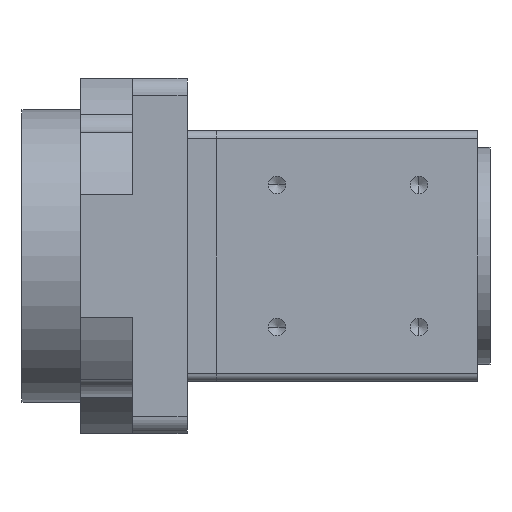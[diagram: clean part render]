
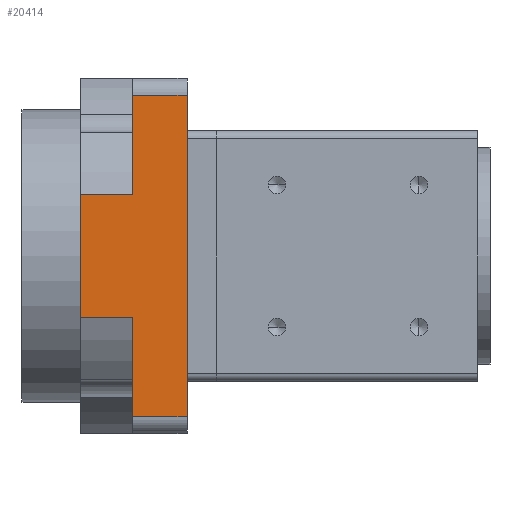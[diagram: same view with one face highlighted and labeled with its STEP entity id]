
A CAD part, left-side view. The second image highlights one B-rep face of the part: STEP entity #20414.
In plain terms, the highlighted planar face has unit normal (-1, 0, 0).
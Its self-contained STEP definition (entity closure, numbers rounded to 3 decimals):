
#4389 = PLANE('',#4390);
#4390 = AXIS2_PLACEMENT_3D('',#4391,#4392,#4393);
#4391 = CARTESIAN_POINT('',(22.343,-3.886,144.3));
#4392 = DIRECTION('',(0.,-1.,0.));
#4393 = DIRECTION('',(0.,-0.,-1.));
#5247 = VERTEX_POINT('',#5248);
#5248 = CARTESIAN_POINT('',(-66.657,-3.886,152.8));
#5263 = CYLINDRICAL_SURFACE('',#5264,4.);
#5264 = AXIS2_PLACEMENT_3D('',#5265,#5266,#5267);
#5265 = CARTESIAN_POINT('',(-62.657,9.114,152.8));
#5266 = DIRECTION('',(-0.,-1.,-0.));
#5267 = DIRECTION('',(0.,0.,-1.));
#5275 = EDGE_CURVE('',#5247,#5276,#5278,.T.);
#5276 = VERTEX_POINT('',#5277);
#5277 = CARTESIAN_POINT('',(-66.657,-3.886,75.8));
#5278 = SURFACE_CURVE('',#5279,(#5283,#5290),.PCURVE_S1.);
#5279 = LINE('',#5280,#5281);
#5280 = CARTESIAN_POINT('',(-66.657,-3.886,144.3));
#5281 = VECTOR('',#5282,1.);
#5282 = DIRECTION('',(0.,-0.,-1.));
#5283 = PCURVE('',#4389,#5284);
#5284 = DEFINITIONAL_REPRESENTATION('',(#5285),#5289);
#5285 = LINE('',#5286,#5287);
#5286 = CARTESIAN_POINT('',(-0.,-89.));
#5287 = VECTOR('',#5288,1.);
#5288 = DIRECTION('',(1.,0.));
#5289 = ( GEOMETRIC_REPRESENTATION_CONTEXT(2) 
PARAMETRIC_REPRESENTATION_CONTEXT() REPRESENTATION_CONTEXT('2D SPACE',''
  ) );
#5290 = PCURVE('',#5291,#5296);
#5291 = PLANE('',#5292);
#5292 = AXIS2_PLACEMENT_3D('',#5293,#5294,#5295);
#5293 = CARTESIAN_POINT('',(-66.657,9.114,75.8));
#5294 = DIRECTION('',(1.,0.,0.));
#5295 = DIRECTION('',(0.,0.,-1.));
#5296 = DEFINITIONAL_REPRESENTATION('',(#5297),#5301);
#5297 = LINE('',#5298,#5299);
#5298 = CARTESIAN_POINT('',(-68.5,-13.));
#5299 = VECTOR('',#5300,1.);
#5300 = DIRECTION('',(1.,-0.));
#5301 = ( GEOMETRIC_REPRESENTATION_CONTEXT(2) 
PARAMETRIC_REPRESENTATION_CONTEXT() REPRESENTATION_CONTEXT('2D SPACE',''
  ) );
#5320 = CYLINDRICAL_SURFACE('',#5321,4.);
#5321 = AXIS2_PLACEMENT_3D('',#5322,#5323,#5324);
#5322 = CARTESIAN_POINT('',(-62.657,9.114,75.8));
#5323 = DIRECTION('',(-0.,-1.,-0.));
#5324 = DIRECTION('',(0.,0.,-1.));
#20253 = PLANE('',#20254);
#20254 = AXIS2_PLACEMENT_3D('',#20255,#20256,#20257);
#20255 = CARTESIAN_POINT('',(-24.157,21.614,114.3));
#20256 = DIRECTION('',(0.,1.,0.));
#20257 = DIRECTION('',(0.,-0.,1.));
#20309 = PLANE('',#20310);
#20310 = AXIS2_PLACEMENT_3D('',#20311,#20312,#20313);
#20311 = CARTESIAN_POINT('',(22.343,9.114,148.3));
#20312 = DIRECTION('',(0.,-1.,0.));
#20313 = DIRECTION('',(0.,-0.,-1.));
#20369 = VERTEX_POINT('',#20370);
#20370 = CARTESIAN_POINT('',(-66.657,9.114,152.8));
#20392 = EDGE_CURVE('',#20369,#5247,#20393,.T.);
#20393 = SURFACE_CURVE('',#20394,(#20398,#20405),.PCURVE_S1.);
#20394 = LINE('',#20395,#20396);
#20395 = CARTESIAN_POINT('',(-66.657,9.114,152.8));
#20396 = VECTOR('',#20397,1.);
#20397 = DIRECTION('',(-0.,-1.,-0.));
#20398 = PCURVE('',#5263,#20399);
#20399 = DEFINITIONAL_REPRESENTATION('',(#20400),#20404);
#20400 = LINE('',#20401,#20402);
#20401 = CARTESIAN_POINT('',(4.712,0.));
#20402 = VECTOR('',#20403,1.);
#20403 = DIRECTION('',(0.,1.));
#20404 = ( GEOMETRIC_REPRESENTATION_CONTEXT(2) 
PARAMETRIC_REPRESENTATION_CONTEXT() REPRESENTATION_CONTEXT('2D SPACE',''
  ) );
#20405 = PCURVE('',#5291,#20406);
#20406 = DEFINITIONAL_REPRESENTATION('',(#20407),#20411);
#20407 = LINE('',#20408,#20409);
#20408 = CARTESIAN_POINT('',(-77.,0.));
#20409 = VECTOR('',#20410,1.);
#20410 = DIRECTION('',(0.,-1.));
#20411 = ( GEOMETRIC_REPRESENTATION_CONTEXT(2) 
PARAMETRIC_REPRESENTATION_CONTEXT() REPRESENTATION_CONTEXT('2D SPACE',''
  ) );
#20414 = ADVANCED_FACE('',(#20415),#5291,.F.);
#20415 = FACE_BOUND('',#20416,.T.);
#20416 = EDGE_LOOP('',(#20417,#20447,#20470,#20498,#20526,#20547,#20548,
    #20549));
#20417 = ORIENTED_EDGE('',*,*,#20418,.F.);
#20418 = EDGE_CURVE('',#20419,#20421,#20423,.T.);
#20419 = VERTEX_POINT('',#20420);
#20420 = CARTESIAN_POINT('',(-66.657,21.614,
    129.09));
#20421 = VERTEX_POINT('',#20422);
#20422 = CARTESIAN_POINT('',(-66.657,9.114,
    129.09));
#20423 = SURFACE_CURVE('',#20424,(#20428,#20435),.PCURVE_S1.);
#20424 = LINE('',#20425,#20426);
#20425 = CARTESIAN_POINT('',(-66.657,9.114,
    129.09));
#20426 = VECTOR('',#20427,1.);
#20427 = DIRECTION('',(-0.,-1.,-0.));
#20428 = PCURVE('',#5291,#20429);
#20429 = DEFINITIONAL_REPRESENTATION('',(#20430),#20434);
#20430 = LINE('',#20431,#20432);
#20431 = CARTESIAN_POINT('',(-53.29,0.));
#20432 = VECTOR('',#20433,1.);
#20433 = DIRECTION('',(0.,-1.));
#20434 = ( GEOMETRIC_REPRESENTATION_CONTEXT(2) 
PARAMETRIC_REPRESENTATION_CONTEXT() REPRESENTATION_CONTEXT('2D SPACE',''
  ) );
#20435 = PCURVE('',#20436,#20441);
#20436 = CYLINDRICAL_SURFACE('',#20437,45.);
#20437 = AXIS2_PLACEMENT_3D('',#20438,#20439,#20440);
#20438 = CARTESIAN_POINT('',(-24.157,21.614,114.3));
#20439 = DIRECTION('',(-0.,-1.,-0.));
#20440 = DIRECTION('',(0.,0.,-1.));
#20441 = DEFINITIONAL_REPRESENTATION('',(#20442),#20446);
#20442 = LINE('',#20443,#20444);
#20443 = CARTESIAN_POINT('',(4.377,12.5));
#20444 = VECTOR('',#20445,1.);
#20445 = DIRECTION('',(0.,1.));
#20446 = ( GEOMETRIC_REPRESENTATION_CONTEXT(2) 
PARAMETRIC_REPRESENTATION_CONTEXT() REPRESENTATION_CONTEXT('2D SPACE',''
  ) );
#20447 = ORIENTED_EDGE('',*,*,#20448,.F.);
#20448 = EDGE_CURVE('',#20449,#20419,#20451,.T.);
#20449 = VERTEX_POINT('',#20450);
#20450 = CARTESIAN_POINT('',(-66.657,21.614,
    99.51));
#20451 = SURFACE_CURVE('',#20452,(#20456,#20463),.PCURVE_S1.);
#20452 = LINE('',#20453,#20454);
#20453 = CARTESIAN_POINT('',(-66.657,21.614,75.8));
#20454 = VECTOR('',#20455,1.);
#20455 = DIRECTION('',(0.,-0.,1.));
#20456 = PCURVE('',#5291,#20457);
#20457 = DEFINITIONAL_REPRESENTATION('',(#20458),#20462);
#20458 = LINE('',#20459,#20460);
#20459 = CARTESIAN_POINT('',(0.,12.5));
#20460 = VECTOR('',#20461,1.);
#20461 = DIRECTION('',(-1.,0.));
#20462 = ( GEOMETRIC_REPRESENTATION_CONTEXT(2) 
PARAMETRIC_REPRESENTATION_CONTEXT() REPRESENTATION_CONTEXT('2D SPACE',''
  ) );
#20463 = PCURVE('',#20253,#20464);
#20464 = DEFINITIONAL_REPRESENTATION('',(#20465),#20469);
#20465 = LINE('',#20466,#20467);
#20466 = CARTESIAN_POINT('',(-38.5,-42.5));
#20467 = VECTOR('',#20468,1.);
#20468 = DIRECTION('',(1.,0.));
#20469 = ( GEOMETRIC_REPRESENTATION_CONTEXT(2) 
PARAMETRIC_REPRESENTATION_CONTEXT() REPRESENTATION_CONTEXT('2D SPACE',''
  ) );
#20470 = ORIENTED_EDGE('',*,*,#20471,.F.);
#20471 = EDGE_CURVE('',#20472,#20449,#20474,.T.);
#20472 = VERTEX_POINT('',#20473);
#20473 = CARTESIAN_POINT('',(-66.657,9.114,
    99.51));
#20474 = SURFACE_CURVE('',#20475,(#20479,#20486),.PCURVE_S1.);
#20475 = LINE('',#20476,#20477);
#20476 = CARTESIAN_POINT('',(-66.657,9.114,
    99.51));
#20477 = VECTOR('',#20478,1.);
#20478 = DIRECTION('',(0.,1.,0.));
#20479 = PCURVE('',#5291,#20480);
#20480 = DEFINITIONAL_REPRESENTATION('',(#20481),#20485);
#20481 = LINE('',#20482,#20483);
#20482 = CARTESIAN_POINT('',(-23.71,0.));
#20483 = VECTOR('',#20484,1.);
#20484 = DIRECTION('',(0.,1.));
#20485 = ( GEOMETRIC_REPRESENTATION_CONTEXT(2) 
PARAMETRIC_REPRESENTATION_CONTEXT() REPRESENTATION_CONTEXT('2D SPACE',''
  ) );
#20486 = PCURVE('',#20487,#20492);
#20487 = CYLINDRICAL_SURFACE('',#20488,45.);
#20488 = AXIS2_PLACEMENT_3D('',#20489,#20490,#20491);
#20489 = CARTESIAN_POINT('',(-24.157,21.614,114.3));
#20490 = DIRECTION('',(-0.,-1.,-0.));
#20491 = DIRECTION('',(0.,0.,-1.));
#20492 = DEFINITIONAL_REPRESENTATION('',(#20493),#20497);
#20493 = LINE('',#20494,#20495);
#20494 = CARTESIAN_POINT('',(5.047,12.5));
#20495 = VECTOR('',#20496,1.);
#20496 = DIRECTION('',(0.,-1.));
#20497 = ( GEOMETRIC_REPRESENTATION_CONTEXT(2) 
PARAMETRIC_REPRESENTATION_CONTEXT() REPRESENTATION_CONTEXT('2D SPACE',''
  ) );
#20498 = ORIENTED_EDGE('',*,*,#20499,.F.);
#20499 = EDGE_CURVE('',#20500,#20472,#20502,.T.);
#20500 = VERTEX_POINT('',#20501);
#20501 = CARTESIAN_POINT('',(-66.657,9.114,75.8));
#20502 = SURFACE_CURVE('',#20503,(#20507,#20514),.PCURVE_S1.);
#20503 = LINE('',#20504,#20505);
#20504 = CARTESIAN_POINT('',(-66.657,9.114,75.8));
#20505 = VECTOR('',#20506,1.);
#20506 = DIRECTION('',(0.,-0.,1.));
#20507 = PCURVE('',#5291,#20508);
#20508 = DEFINITIONAL_REPRESENTATION('',(#20509),#20513);
#20509 = LINE('',#20510,#20511);
#20510 = CARTESIAN_POINT('',(0.,0.));
#20511 = VECTOR('',#20512,1.);
#20512 = DIRECTION('',(-1.,0.));
#20513 = ( GEOMETRIC_REPRESENTATION_CONTEXT(2) 
PARAMETRIC_REPRESENTATION_CONTEXT() REPRESENTATION_CONTEXT('2D SPACE',''
  ) );
#20514 = PCURVE('',#20515,#20520);
#20515 = PLANE('',#20516);
#20516 = AXIS2_PLACEMENT_3D('',#20517,#20518,#20519);
#20517 = CARTESIAN_POINT('',(22.343,9.114,148.3));
#20518 = DIRECTION('',(0.,-1.,0.));
#20519 = DIRECTION('',(0.,-0.,-1.));
#20520 = DEFINITIONAL_REPRESENTATION('',(#20521),#20525);
#20521 = LINE('',#20522,#20523);
#20522 = CARTESIAN_POINT('',(72.5,-89.));
#20523 = VECTOR('',#20524,1.);
#20524 = DIRECTION('',(-1.,0.));
#20525 = ( GEOMETRIC_REPRESENTATION_CONTEXT(2) 
PARAMETRIC_REPRESENTATION_CONTEXT() REPRESENTATION_CONTEXT('2D SPACE',''
  ) );
#20526 = ORIENTED_EDGE('',*,*,#20527,.F.);
#20527 = EDGE_CURVE('',#5276,#20500,#20528,.T.);
#20528 = SURFACE_CURVE('',#20529,(#20533,#20540),.PCURVE_S1.);
#20529 = LINE('',#20530,#20531);
#20530 = CARTESIAN_POINT('',(-66.657,9.114,75.8));
#20531 = VECTOR('',#20532,1.);
#20532 = DIRECTION('',(0.,1.,0.));
#20533 = PCURVE('',#5291,#20534);
#20534 = DEFINITIONAL_REPRESENTATION('',(#20535),#20539);
#20535 = LINE('',#20536,#20537);
#20536 = CARTESIAN_POINT('',(0.,0.));
#20537 = VECTOR('',#20538,1.);
#20538 = DIRECTION('',(0.,1.));
#20539 = ( GEOMETRIC_REPRESENTATION_CONTEXT(2) 
PARAMETRIC_REPRESENTATION_CONTEXT() REPRESENTATION_CONTEXT('2D SPACE',''
  ) );
#20540 = PCURVE('',#5320,#20541);
#20541 = DEFINITIONAL_REPRESENTATION('',(#20542),#20546);
#20542 = LINE('',#20543,#20544);
#20543 = CARTESIAN_POINT('',(4.712,0.));
#20544 = VECTOR('',#20545,1.);
#20545 = DIRECTION('',(0.,-1.));
#20546 = ( GEOMETRIC_REPRESENTATION_CONTEXT(2) 
PARAMETRIC_REPRESENTATION_CONTEXT() REPRESENTATION_CONTEXT('2D SPACE',''
  ) );
#20547 = ORIENTED_EDGE('',*,*,#5275,.F.);
#20548 = ORIENTED_EDGE('',*,*,#20392,.F.);
#20549 = ORIENTED_EDGE('',*,*,#20550,.F.);
#20550 = EDGE_CURVE('',#20421,#20369,#20551,.T.);
#20551 = SURFACE_CURVE('',#20552,(#20556,#20563),.PCURVE_S1.);
#20552 = LINE('',#20553,#20554);
#20553 = CARTESIAN_POINT('',(-66.657,9.114,75.8));
#20554 = VECTOR('',#20555,1.);
#20555 = DIRECTION('',(0.,-0.,1.));
#20556 = PCURVE('',#5291,#20557);
#20557 = DEFINITIONAL_REPRESENTATION('',(#20558),#20562);
#20558 = LINE('',#20559,#20560);
#20559 = CARTESIAN_POINT('',(0.,0.));
#20560 = VECTOR('',#20561,1.);
#20561 = DIRECTION('',(-1.,0.));
#20562 = ( GEOMETRIC_REPRESENTATION_CONTEXT(2) 
PARAMETRIC_REPRESENTATION_CONTEXT() REPRESENTATION_CONTEXT('2D SPACE',''
  ) );
#20563 = PCURVE('',#20309,#20564);
#20564 = DEFINITIONAL_REPRESENTATION('',(#20565),#20569);
#20565 = LINE('',#20566,#20567);
#20566 = CARTESIAN_POINT('',(72.5,-89.));
#20567 = VECTOR('',#20568,1.);
#20568 = DIRECTION('',(-1.,0.));
#20569 = ( GEOMETRIC_REPRESENTATION_CONTEXT(2) 
PARAMETRIC_REPRESENTATION_CONTEXT() REPRESENTATION_CONTEXT('2D SPACE',''
  ) );
